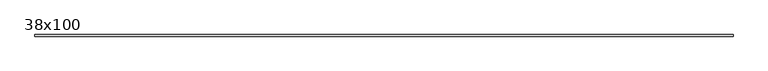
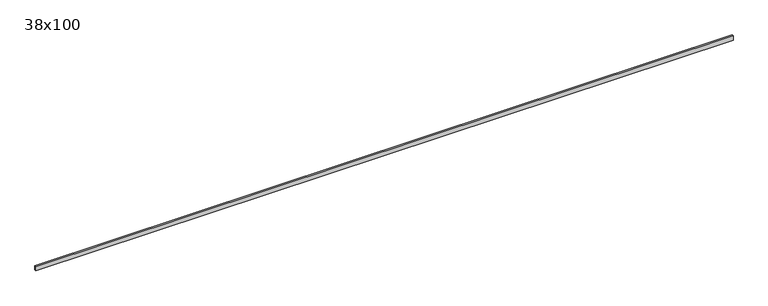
"""IFC4 building model written with IfcOpenShell, lengths in millimetres: beam geometry, Poutre - Bois de construction de dimensions courantes : 38x100."""

from ifc_helpers import new_model, si_unit, frame, origin, place, context, project, spatial, polyline, outline, extrude, source, transform, mapped, element, save


def beam_38x100_89510628(model_context):
    return source(origin(), model_context, "Body", "SweptSolid", [
        extrude(outline(polyline([(7959.5, 19.05), (7959.5, -19.05), (-7959.5, -19.05), (-7959.5, 19.05), (7959.5, 19.05)])), frame((0.0, 0.0, -50.0), z_axis=(0.0, 0.0, 1.0), x_axis=(1.0, 0.0, 0.0)), (0.0, 0.0, 1.0), 100.0),
    ])


if __name__ == "__main__":
    model = new_model("IFC4")
    model_context = context("Model", 3, world=origin())
    ifc_project = project(units=[si_unit("LENGTHUNIT", "METRE", prefix="MILLI")], contexts=[model_context])
    site = spatial("IfcSite", under=ifc_project)
    building = spatial("IfcBuilding", under=site)
    placement = place(None, origin())
    beam_38x100_shape = beam_38x100_89510628(model_context)
    element("IfcBeam", 1, ObjectType="Poutre - Bois de construction de dimensions courantes : 38x100", at=placement, inside=building, context=model_context, shape_type="MappedRepresentation", body=[
        mapped(beam_38x100_shape, transform((0.0, 0.0, 0.0), x_axis=(1.0, 0.0, 0.0), y_axis=(0.0, 1.0, 0.0), z_axis=(0.0, 0.0, 1.0))),
    ])
    save(model, "model.ifc")
